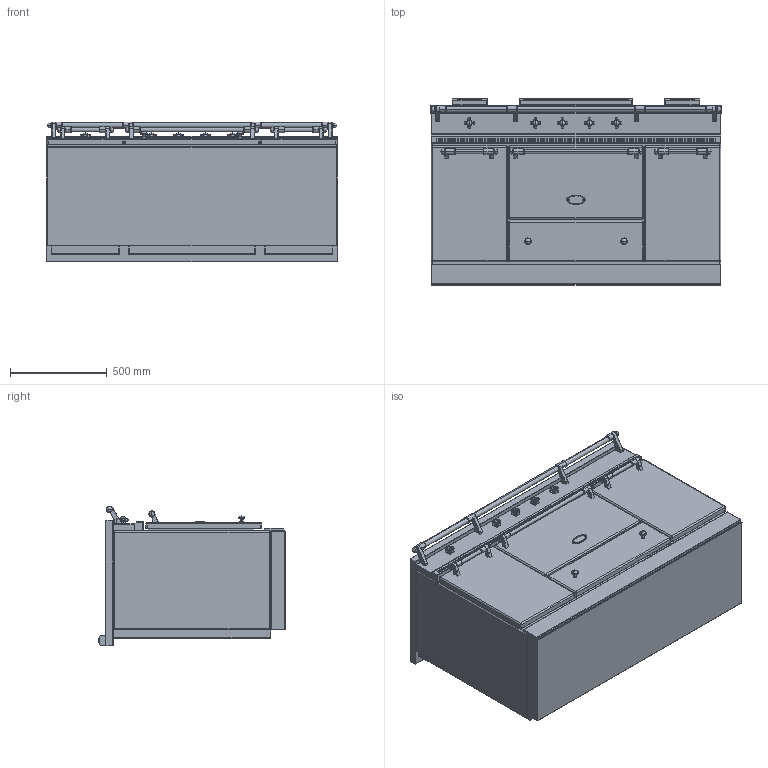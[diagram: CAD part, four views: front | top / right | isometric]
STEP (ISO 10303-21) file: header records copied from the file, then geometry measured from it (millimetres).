
FILE_DESCRIPTION((''),'2;1');
FILE_NAME('LVI1532__ASM','2021-12-02T15:24:24',('r.avril'),(''),'CREO PARAMETRIC BY PTC INC, 2017260','CREO PARAMETRIC BY PTC INC, 2017260','');
FILE_SCHEMA(('AP203_CONFIGURATION_CONTROLLED_3D_DESIGN_OF_MECHANICAL_PARTS_AND_ASSEMBLIES_MIM_LF { 1 0 10303 403 2 1 2 }'));
Products named in the file (21): BASE_EXPORT_FONTENAY_LVI1531; 65650003; 65650004; 65650006; 65650007; 6531940; 6531941; 6531943; 65049009; 65650001; 6538399; 1931942; 65080022_AF0; 6531942_ASM; BASE_EXPORT_CITEAUX_LVI1532_ASM; TABLE_1505_INDUCTION_ET_VTR; 65052012; CHEMINEE_2020_LG182_EXPORT_STEP; CHEMINEE_2020_LG582_EXPORT_STEP; TABLE_1505_INDUCTION_ASM; LVI1532__ASM
Assembly tree (30 placements, depth 4):
  LVI1532__ASM
    BASE_EXPORT_CITEAUX_LVI1532_ASM
      BASE_EXPORT_FONTENAY_LVI1531
      65650003
      65650004
      65650006
      65650007
      6531940  x3
      6531941  x3
      6531943  x2
      65049009
      65650001
      6531942_ASM  x5
        6538399
        1931942
        65080022_AF0
    TABLE_1505_INDUCTION_ASM
      TABLE_1505_INDUCTION_ET_VTR
      65052012
      CHEMINEE_2020_LG182_EXPORT_STEP  x2
      CHEMINEE_2020_LG582_EXPORT_STEP
Bounding box: 1505 x 963 x 724 mm (x, y, z)
Volume: 554589450.5 mm3; surface area: 13450908.1 mm2
Topology: 43 solids, 55 shells, 4808 faces, 12984 edges, 8309 vertices
Faces by surface type: plane 2480, cylinder 1614, torus 219, sphere 162, extrusion 142, bspline 94, cone 81, revolution 16
Entity records: 119249 total; most frequent: CARTESIAN_POINT 25786, ORIENTED_EDGE 16584, DIRECTION 16304, EDGE_CURVE 8306, VECTOR 5588, LINE 5558, VERTEX_POINT 5367, AXIS2_PLACEMENT_3D 5324
